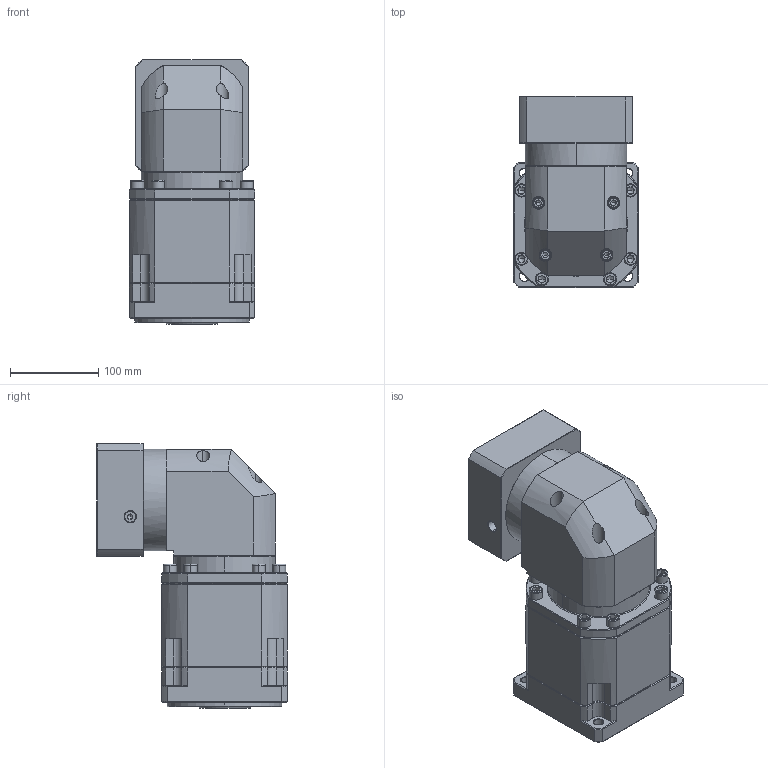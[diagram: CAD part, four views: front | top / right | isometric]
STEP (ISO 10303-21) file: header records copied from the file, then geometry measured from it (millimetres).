
FILE_DESCRIPTION (( 'STEP AP214' ), '1' );
FILE_NAME ('ZBR142A-K35-L3-P2-28-110-145-M8.step', '2023-09-02T08:15:51', ( '' ), ( '' ), 'SwSTEP 2.0', 'SolidWorks 2016', '' );
FILE_SCHEMA (( 'AUTOMOTIVE_DESIGN' ));
Length unit declared in the file: millimetre
Products named in the file (1): ZBR142A-K35-L3-P2-28-110-145-M8
Bounding box: 142 x 215.9 x 300.2 mm (x, y, z)
Volume: 5173953 mm3; surface area: 345905.2 mm2
Topology: 6 solids, 6 shells, 2530 faces, 6577 edges, 4169 vertices
Faces by surface type: plane 1226, cylinder 465, bspline 404, cone 391, torus 44
Entity records: 130364 total; most frequent: CARTESIAN_POINT 43826, ORIENTED_EDGE 13050, DIRECTION 10703, EDGE_CURVE 6525, LINE 4217, VECTOR 4217, VERTEX_POINT 4169, AXIS2_PLACEMENT_3D 3243
